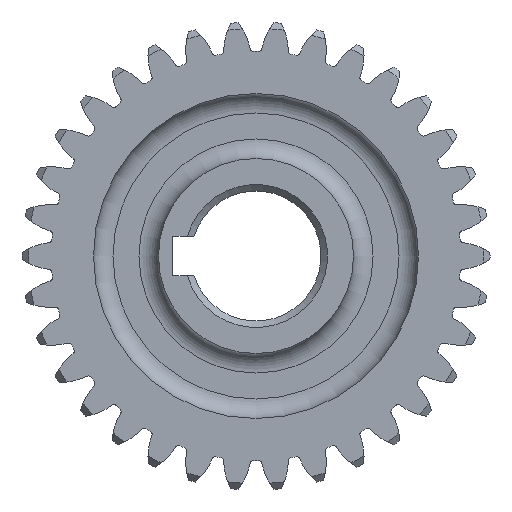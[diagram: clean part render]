
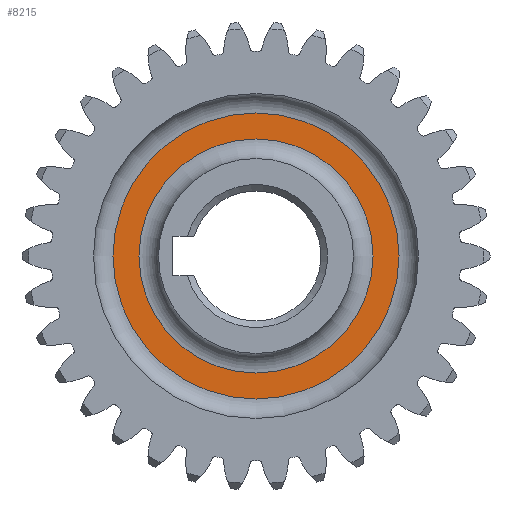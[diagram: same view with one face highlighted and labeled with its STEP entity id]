
A CAD part, left-side view. The second image highlights one B-rep face of the part: STEP entity #8215.
In plain terms, the highlighted planar face has unit normal (-1, 0, 0).
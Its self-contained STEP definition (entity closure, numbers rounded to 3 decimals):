
#592=FACE_BOUND($,#1787,.T.);
#593=FACE_BOUND($,#1788,.T.);
#1296=PLANE($,#8963);
#1787=EDGE_LOOP($,(#5648));
#1788=EDGE_LOOP($,(#5649));
#2522=CIRCLE($,#8961,22.);
#2524=CIRCLE($,#8964,18.);
#3333=VERTEX_POINT($,#13416);
#3335=VERTEX_POINT($,#13421);
#4258=EDGE_CURVE($,#3333,#3333,#2522,.T.);
#4260=EDGE_CURVE($,#3335,#3335,#2524,.T.);
#5648=ORIENTED_EDGE($,*,*,#4260,.F.);
#5649=ORIENTED_EDGE($,*,*,#4258,.F.);
#8215=ADVANCED_FACE($,(#592,#593),#1296,.T.);
#8961=AXIS2_PLACEMENT_3D($,#13417,#10528,#10529);
#8963=AXIS2_PLACEMENT_3D($,#13420,#10532,#10533);
#8964=AXIS2_PLACEMENT_3D($,#13422,#10534,#10535);
#10528=DIRECTION('center_axis',(1.,0.,0.));
#10529=DIRECTION('ref_axis',(0.,-1.,0.));
#10532=DIRECTION('center_axis',(-1.,0.,0.));
#10533=DIRECTION('ref_axis',(0.,0.,1.));
#10534=DIRECTION('center_axis',(-1.,0.,0.));
#10535=DIRECTION('ref_axis',(0.,-1.,0.));
#13416=CARTESIAN_POINT('',(-6.5,22.,0.));
#13417=CARTESIAN_POINT('Origin',(-6.5,0.,
0.));
#13420=CARTESIAN_POINT('Origin',(-6.5,25.,0.));
#13421=CARTESIAN_POINT('',(-6.5,18.,0.));
#13422=CARTESIAN_POINT('Origin',(-6.5,0.,
0.));
